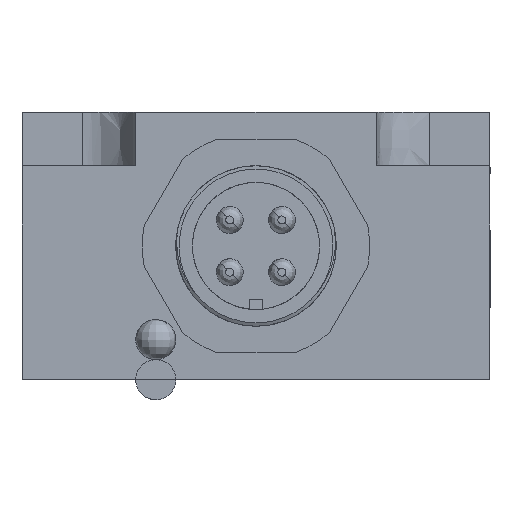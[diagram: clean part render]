
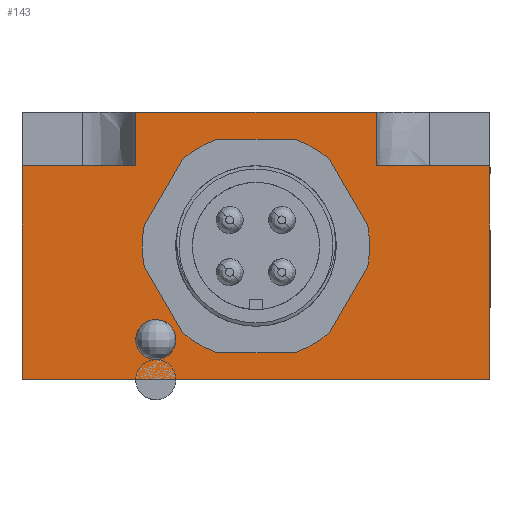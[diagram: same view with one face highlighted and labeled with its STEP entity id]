
A CAD part, front view. The second image highlights one B-rep face of the part: STEP entity #143.
In plain terms, the highlighted free-form (B-spline) face has degree [1, 1] with [2, 2] control points.
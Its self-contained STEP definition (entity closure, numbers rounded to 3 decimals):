
#143=ADVANCED_FACE('',(#321,#292),#2030,.T.);
#292=FACE_BOUND('',#487,.T.);
#321=FACE_OUTER_BOUND('',#486,.T.);
#486=EDGE_LOOP('',(#730,#731,#732,#733,#734,#735,#736,#737));
#487=EDGE_LOOP('',(#738,#739));
#730=ORIENTED_EDGE('',*,*,#1380,.T.);
#731=ORIENTED_EDGE('',*,*,#1364,.F.);
#732=ORIENTED_EDGE('',*,*,#1361,.F.);
#733=ORIENTED_EDGE('',*,*,#1360,.T.);
#734=ORIENTED_EDGE('',*,*,#1365,.T.);
#735=ORIENTED_EDGE('',*,*,#1333,.T.);
#736=ORIENTED_EDGE('',*,*,#1382,.F.);
#737=ORIENTED_EDGE('',*,*,#1379,.F.);
#738=ORIENTED_EDGE('',*,*,#1388,.T.);
#739=ORIENTED_EDGE('',*,*,#1433,.T.);
#1333=EDGE_CURVE('',#1677,#1676,#8695,.T.);
#1360=EDGE_CURVE('',#1696,#1697,#8714,.T.);
#1361=EDGE_CURVE('',#1696,#1690,#8715,.T.);
#1364=EDGE_CURVE('',#1690,#1706,#8718,.T.);
#1365=EDGE_CURVE('',#1697,#1677,#8719,.T.);
#1379=EDGE_CURVE('',#1710,#1703,#8732,.T.);
#1380=EDGE_CURVE('',#1710,#1706,#8733,.T.);
#1382=EDGE_CURVE('',#1703,#1676,#8735,.T.);
#1388=EDGE_CURVE('',#1716,#1771,#2099,.T.);
#1433=EDGE_CURVE('',#1771,#1716,#2111,.T.);
#1676=VERTEX_POINT('',#3328);
#1677=VERTEX_POINT('',#3329);
#1690=VERTEX_POINT('',#3342);
#1696=VERTEX_POINT('',#3348);
#1697=VERTEX_POINT('',#3349);
#1703=VERTEX_POINT('',#3355);
#1706=VERTEX_POINT('',#3358);
#1710=VERTEX_POINT('',#3362);
#1716=VERTEX_POINT('',#3368);
#1771=VERTEX_POINT('',#3423);
#2030=B_SPLINE_SURFACE_WITH_KNOTS('',1,1,((#2989,#2990),(#2991,#2992)),.UNSPECIFIED.,
.F.,.F.,.F.,(2,2),(2,2),(0.,20.),(0.,35.),.UNSPECIFIED.);
#2099=(
BOUNDED_CURVE()
B_SPLINE_CURVE(2,(#2605,#2606,#2607,#2608,#2609),.UNSPECIFIED.,.F.,.F.)
B_SPLINE_CURVE_WITH_KNOTS((3,2,3),(-9.425,-7.069,-4.712),
.UNSPECIFIED.)
CURVE()
GEOMETRIC_REPRESENTATION_ITEM()
RATIONAL_B_SPLINE_CURVE((1.,0.707,1.,0.707,1.))
REPRESENTATION_ITEM('')
);
#2111=(
BOUNDED_CURVE()
B_SPLINE_CURVE(2,(#2856,#2857,#2858,#2859,#2860),.UNSPECIFIED.,.F.,.F.)
B_SPLINE_CURVE_WITH_KNOTS((3,2,3),(-4.712,-2.356,0.),
.UNSPECIFIED.)
CURVE()
GEOMETRIC_REPRESENTATION_ITEM()
RATIONAL_B_SPLINE_CURVE((1.,0.707,1.,0.707,1.))
REPRESENTATION_ITEM('')
);
#2280=CARTESIAN_POINT('',(-24.5,-30.,0.));
#2281=CARTESIAN_POINT('',(10.5,-30.,0.));
#2472=CARTESIAN_POINT('',(-16.,-30.,16.));
#2473=CARTESIAN_POINT('',(-24.5,-30.,16.));
#2474=CARTESIAN_POINT('',(-16.,-30.,16.));
#2475=CARTESIAN_POINT('',(-16.,-30.,20.));
#2480=CARTESIAN_POINT('',(-16.,-30.,20.));
#2481=CARTESIAN_POINT('',(2.,-30.,20.));
#2482=CARTESIAN_POINT('',(-24.5,-30.,16.));
#2483=CARTESIAN_POINT('',(-24.5,-30.,0.));
#2565=CARTESIAN_POINT('',(2.,-30.,16.));
#2566=CARTESIAN_POINT('',(10.5,-30.,16.));
#2567=CARTESIAN_POINT('',(2.,-30.,16.));
#2568=CARTESIAN_POINT('',(2.,-30.,20.));
#2571=CARTESIAN_POINT('',(10.5,-30.,16.));
#2572=CARTESIAN_POINT('',(10.5,-30.,0.));
#2605=CARTESIAN_POINT('',(-14.5,-30.,1.5));
#2606=CARTESIAN_POINT('',(-16.,-30.,1.5));
#2607=CARTESIAN_POINT('',(-16.,-30.,3.));
#2608=CARTESIAN_POINT('',(-16.,-30.,4.5));
#2609=CARTESIAN_POINT('',(-14.5,-30.,4.5));
#2856=CARTESIAN_POINT('',(-14.5,-30.,4.5));
#2857=CARTESIAN_POINT('',(-13.,-30.,4.5));
#2858=CARTESIAN_POINT('',(-13.,-30.,3.));
#2859=CARTESIAN_POINT('',(-13.,-30.,1.5));
#2860=CARTESIAN_POINT('',(-14.5,-30.,1.5));
#2989=CARTESIAN_POINT('',(-24.5,-30.,20.));
#2990=CARTESIAN_POINT('',(10.5,-30.,20.));
#2991=CARTESIAN_POINT('',(-24.5,-30.,0.));
#2992=CARTESIAN_POINT('',(10.5,-30.,0.));
#3328=CARTESIAN_POINT('',(10.5,-30.,0.));
#3329=CARTESIAN_POINT('',(-24.5,-30.,0.));
#3342=CARTESIAN_POINT('',(-16.,-30.,20.));
#3348=CARTESIAN_POINT('',(-16.,-30.,16.));
#3349=CARTESIAN_POINT('',(-24.5,-30.,16.));
#3355=CARTESIAN_POINT('',(10.5,-30.,16.));
#3358=CARTESIAN_POINT('',(2.,-30.,20.));
#3362=CARTESIAN_POINT('',(2.,-30.,16.));
#3368=CARTESIAN_POINT('',(-14.5,-30.,1.5));
#3423=CARTESIAN_POINT('',(-14.5,-30.,4.5));
#8695=B_SPLINE_CURVE_WITH_KNOTS('',1,(#2280,#2281),.UNSPECIFIED.,.F.,.F.,
(2,2),(0.,35.),.UNSPECIFIED.);
#8714=B_SPLINE_CURVE_WITH_KNOTS('',1,(#2472,#2473),.UNSPECIFIED.,.F.,.F.,
(2,2),(-8.5,0.),.UNSPECIFIED.);
#8715=B_SPLINE_CURVE_WITH_KNOTS('',1,(#2474,#2475),.UNSPECIFIED.,.F.,.F.,
(2,2),(0.,4.),.UNSPECIFIED.);
#8718=B_SPLINE_CURVE_WITH_KNOTS('',1,(#2480,#2481),.UNSPECIFIED.,.F.,.F.,
(2,2),(8.5,26.5),.UNSPECIFIED.);
#8719=B_SPLINE_CURVE_WITH_KNOTS('',1,(#2482,#2483),.UNSPECIFIED.,.F.,.F.,
(2,2),(4.,20.),.UNSPECIFIED.);
#8732=B_SPLINE_CURVE_WITH_KNOTS('',1,(#2565,#2566),.UNSPECIFIED.,.F.,.F.,
(2,2),(-8.5,0.),.UNSPECIFIED.);
#8733=B_SPLINE_CURVE_WITH_KNOTS('',1,(#2567,#2568),.UNSPECIFIED.,.F.,.F.,
(2,2),(0.,4.),.UNSPECIFIED.);
#8735=B_SPLINE_CURVE_WITH_KNOTS('',1,(#2571,#2572),.UNSPECIFIED.,.F.,.F.,
(2,2),(4.,20.),.UNSPECIFIED.);
